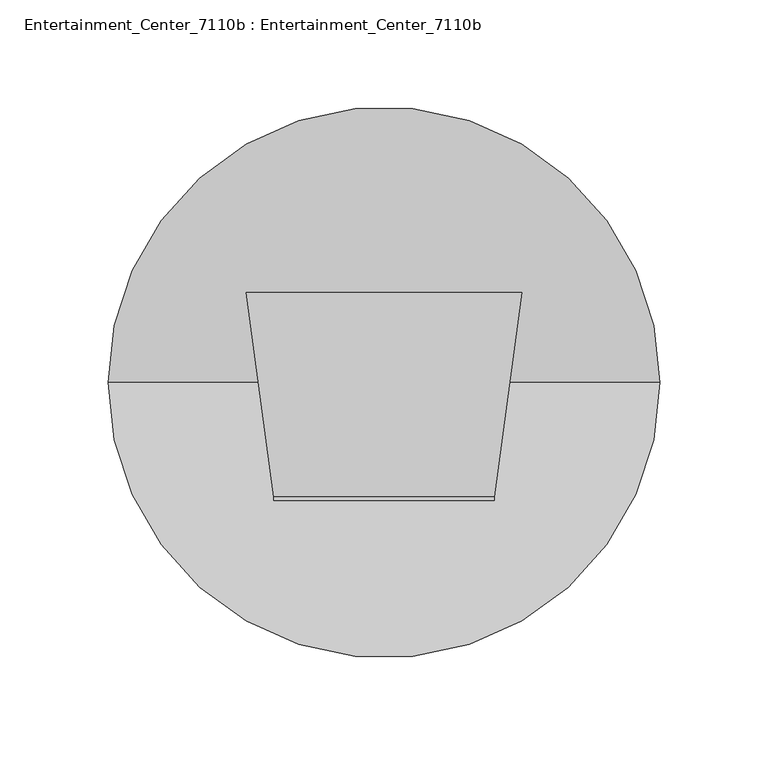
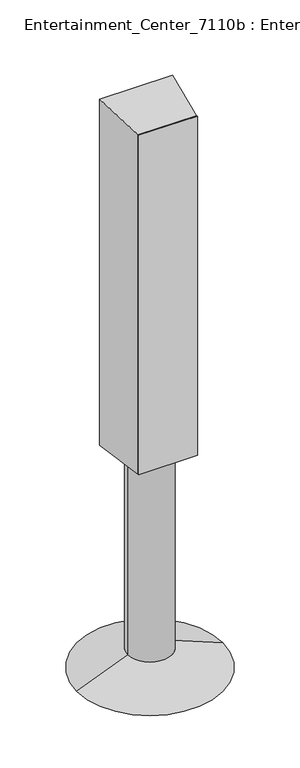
"""IFC4 building model written with IfcOpenShell, lengths in millimetres: furniture geometry, Entertainment_Center_7110b : Entertainment_Center_7110b."""

from ifc_helpers import new_model, si_unit, point, frame, frame_2d, origin, place, context, project, spatial, polyline, circle_curve, trimmed, segment, composite_curve, outline, extrude, faceted_brep, source, transform, mapped, element, save
from ifc_brep_helpers import plane_surface, revolved_surface, advanced_brep


def entertainment_center_7110b_entertainment_center_7110b_65f11607(model_context):
    return source(origin(), model_context, "Body", "SolidModel", [
        extrude(outline(polyline([(53.1818765, 250.3848366), (-48.4181235, 250.3848366), (-48.4181235, 251.9723366), (53.1818765, 251.9723366), (53.1818765, 250.3848366)])), frame((0.0, 0.0, 823.7318456), z_axis=(0.0, 0.0, 1.0), x_axis=(1.0, 0.0, 0.0)), (0.0, 0.0, 1.0), 622.3),
        faceted_brep([(-48.4181235, 251.9723366, 823.7318456), (53.1818765, 251.9723366, 823.7318456), (53.1818765, 251.9723366, 1446.0318456), (-48.4181235, 251.9723366, 1446.0318456), (-61.1181235, 346.1615234, 823.7318456), (-61.1181235, 346.1615234, 1458.7318456), (65.8818765, 346.1615234, 1458.7318456), (65.8818765, 346.1615234, 823.7318456), (5.7312026, 346.1615234, 823.7318456)], [[[0, 1, 2, 3]], [[4, 5, 6, 7, 8]], [[4, 8, 1, 0]], [[8, 7, 1]], [[7, 6, 2, 1]], [[6, 5, 3, 2]], [[5, 4, 0, 3]]]),
        extrude(outline(composite_curve([segment(trimmed(circle_curve(frame_2d((2.3818765, 304.8)), 38.1), [point((-35.7181235, 304.8))], [point((40.4818765, 304.8))], False, "CARTESIAN"), True, "CONTINUOUS"), segment(trimmed(circle_curve(frame_2d((2.3818765, 304.8)), 38.1), [point((40.4818765, 304.8))], [point((-35.7181235, 304.8))], False, "CARTESIAN"), True, "CONTINUOUS")], self_intersect=False)), frame((0.0, 0.0, 455.6736775), z_axis=(0.0, 0.0, 1.0), x_axis=(1.0, 0.0, 0.0)), (0.0, 0.0, 1.0), 368.0581681),
        advanced_brep(
        [(-35.7181235, 304.8, 455.6736775), (40.4818765, 304.8, 455.6736775), (-124.6181235, 304.8, 420.0), (129.3818765, 304.8, 420.0)],
        [
            (0, 1, circle_curve(frame((2.3818765, 304.8, 455.6736775), z_axis=(0.0, 0.0, 1.0), x_axis=(-1.0, 0.0, 0.0)), 38.1)),
            (1, 0, circle_curve(frame((2.3818765, 304.8, 455.6736775), z_axis=(0.0, 0.0, 1.0), x_axis=(1.0, 0.0, 0.0)), 38.1)),
            (2, 3, circle_curve(frame((2.3818765, 304.8, 420.0), z_axis=(0.0, 0.0, -1.0), x_axis=(1.0, 0.0, 0.0)), 127.0)),
            (3, 2, circle_curve(frame((2.3818765, 304.8, 420.0), z_axis=(0.0, 0.0, -1.0), x_axis=(-1.0, 0.0, 0.0)), 127.0)),
            (3, 1),
            (0, 2),
        ],
        [
            plane_surface(frame((2.3818765, 304.8, 455.6736775), z_axis=(0.0, 0.0, 1.0), x_axis=(0.0, -1.0, 0.0))),
            plane_surface(frame((2.3818765, 304.8, 420.0), z_axis=(0.0, 0.0, -1.0), x_axis=(0.0, -1.0, 0.0))),
            revolved_surface(polyline([(-35.718123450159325, 304.8, 455.6736775), (-124.6181235, 304.8, 420.0)]), (2.3818765, 304.8, 470.9623964), (0.0, 0.0, -1.0)),
            revolved_surface(polyline([(40.48187645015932, 304.8, 455.6736775), (129.3818765, 304.8, 420.0)]), (2.3818765, 304.8, 470.9623964), (0.0, 0.0, -1.0)),
        ],
        [
            (0, [[1, 2]]),
            (1, [[3, 4]]),
            (2, [[-4, 5, -1, 6]]),
            (3, [[-3, -6, -2, -5]]),
        ],
    ),
    ])


if __name__ == "__main__":
    model = new_model("IFC4")
    model_context = context("Model", 3, world=origin())
    ifc_project = project(units=[si_unit("LENGTHUNIT", "METRE", prefix="MILLI")], contexts=[model_context])
    site = spatial("IfcSite", under=ifc_project)
    building = spatial("IfcBuilding", under=site)
    placement = place(None, origin())
    entertainment_center_7110b_entertainment_center_7110b_shape = entertainment_center_7110b_entertainment_center_7110b_65f11607(model_context)
    element("IfcFurniture", 1, ObjectType="Entertainment_Center_7110b : Entertainment_Center_7110b", at=placement, inside=building, context=model_context, shape_type="MappedRepresentation", body=[
        mapped(entertainment_center_7110b_entertainment_center_7110b_shape, transform((0.0, 0.0, 0.0), x_axis=(1.0, 0.0, 0.0), y_axis=(0.0, 1.0, 0.0), z_axis=(0.0, 0.0, 1.0))),
    ])
    save(model, "model.ifc")
